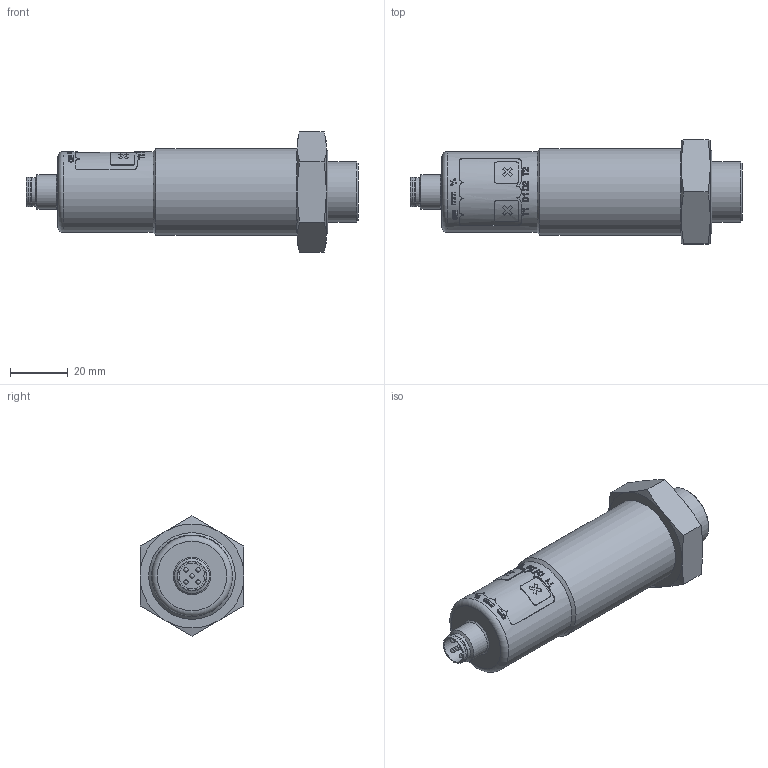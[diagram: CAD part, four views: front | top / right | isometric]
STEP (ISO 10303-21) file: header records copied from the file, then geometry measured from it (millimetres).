
FILE_DESCRIPTION((''),'2;1');
FILE_NAME('J:\Projekte\Kunststoff-Blechteile\Zeichnungen\Bibliothek Inventor\3D Solids\hps\STP\hps-25_G1_2.stp','2009-02-16T11:02:35',('Oliver Liedtke'),(''),'Autodesk Inventor 2009','Autodesk Inventor 2009','');
FILE_SCHEMA(('AUTOMOTIVE_DESIGN { 1 0 10303 214 1 1 1 1 }'));
Length unit declared in the file: millimetre
Products named in the file (1): hps-25_G1_2
Bounding box: 115 x 36 x 41.57 mm (x, y, z)
Volume: 70425.1 mm3; surface area: 13225.4 mm2
Topology: 1 solids, 2 shells, 312 faces, 807 edges, 522 vertices
Faces by surface type: bspline 133, plane 111, cylinder 39, cone 19, torus 5, sphere 5
Full cylindrical faces by diameter (mm): 1.5 x5, 10 x1, 10.35 x1, 12 x1, 20.95 x1, 24.95 x1, 28 x1, 29.75 x2, 30 x1
Entity records: 51436 total; most frequent: CARTESIAN_POINT 44884, ORIENTED_EDGE 1532, DIRECTION 883, EDGE_CURVE 766, VERTEX_POINT 520, EDGE_LOOP 378, B_SPLINE_CURVE_WITH_KNOTS 338, FACE_OUTER_BOUND 312
